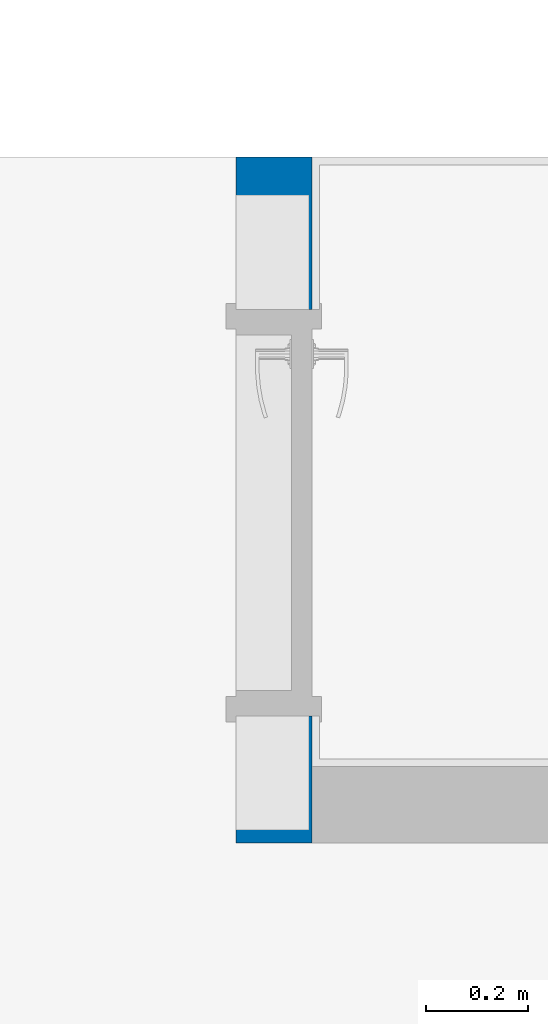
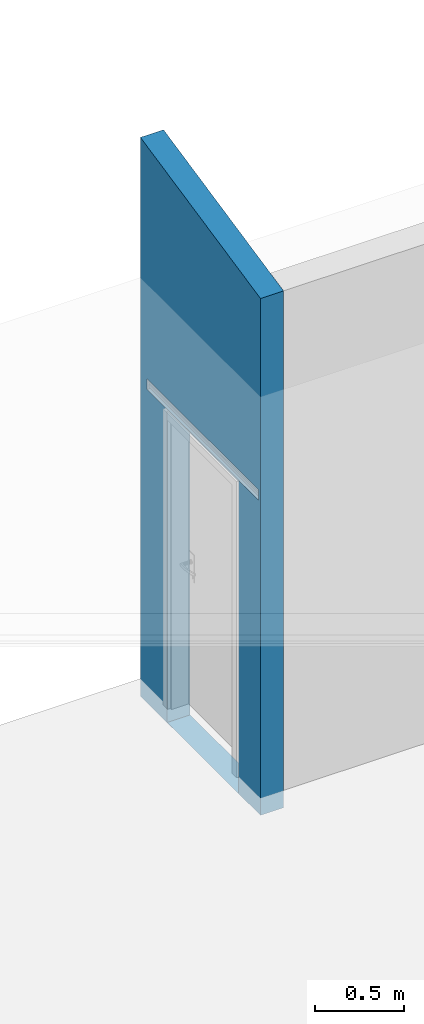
# One storey, part 4 of 5: 1 wall, 1 opening.
"""IFC4 building model written with IfcOpenShell, lengths in millimetres."""

from ifc_helpers import new_model, entity, si_unit, converted_unit, derived_unit, direction, frame, origin_with_axes, place, context, subcontext, project, spatial, polygons, material, constituent, constituent_set, type_object, element, save


model = new_model("IFC4")

# Units and contexts
model_context = context("Model", 3, precision=0.01, world=origin_with_axes(), true_north=direction((0.0, 1.0)))
body_context = subcontext(model_context, "Body", "Model", "MODEL_VIEW")
ifc_project = project(units=[si_unit("LENGTHUNIT", "METRE", prefix="MILLI"), si_unit("AREAUNIT", "SQUARE_METRE"), si_unit("VOLUMEUNIT", "CUBIC_METRE"), converted_unit("PLANEANGLEUNIT", "DEGREE", entity("IfcPlaneAngleMeasure", 0.0174532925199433), si_unit("PLANEANGLEUNIT", "RADIAN"), dimensions=[0, 0, 0, 0, 0, 0, 0]), converted_unit("TIMEUNIT", "Year", entity("IfcTimeMeasure", 31557600.0), si_unit("TIMEUNIT", "SECOND"), dimensions=[0, 0, 1, 0, 0, 0, 0]), si_unit("MASSUNIT", "GRAM", prefix="KILO"), si_unit("THERMODYNAMICTEMPERATUREUNIT", "DEGREE_CELSIUS"), si_unit("LUMINOUSINTENSITYUNIT", "LUMEN"), si_unit("ENERGYUNIT", "JOULE", prefix="MEGA"), derived_unit("THERMALCONDUCTANCEUNIT", [(si_unit("POWERUNIT", "WATT"), 1), (si_unit("LENGTHUNIT", "METRE"), -1), (si_unit("THERMODYNAMICTEMPERATUREUNIT", "KELVIN"), -1)]), derived_unit("SPECIFICHEATCAPACITYUNIT", [(si_unit("ENERGYUNIT", "JOULE"), 1), (si_unit("MASSUNIT", "GRAM", prefix="KILO"), -1), (si_unit("THERMODYNAMICTEMPERATUREUNIT", "KELVIN"), -1)]), derived_unit("MASSDENSITYUNIT", [(si_unit("MASSUNIT", "GRAM", prefix="KILO"), 1), (si_unit("VOLUMEUNIT", "CUBIC_METRE"), -1)])], contexts=[model_context])

# Site, building, storey
site_placement = place(None, origin_with_axes())
site = spatial("IfcSite", under=ifc_project, at=site_placement, Name="Exteriér", CompositionType="ELEMENT")
building_placement = place(site_placement, origin_with_axes())
building = spatial("IfcBuilding", under=site, at=building_placement, Name="Univerzitní lezecké centrum", CompositionType="ELEMENT")
storey_placement = place(building_placement, frame((0.0, 0.0, 9600.000000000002), z_axis=(0.0, 0.0, 1.0), x_axis=(1.0, 0.0, 0.0)))
storey = spatial("IfcBuildingStorey", under=building, at=storey_placement, Name="4.NP", CompositionType="ELEMENT", Elevation=9600.0)

# Wall, opening
ifc_material = material(Name="Keramické tvárnice nenosné tl. 150 mm")
ifc_constituent = constituent(ifc_material, Name="Keramické tvárnice nenosné tl. 150 mm")
ifc_constituent_set = constituent_set(constituents=[ifc_constituent], Name="!Vnitřní keramická stěna 150 mm - nenosná*")
wall_type = type_object("IfcWallType", Name="!Vnitřní keramická stěna 150 mm - nenosná* 150", PredefinedType="NOTDEFINED")
wall_placement = place(storey_placement, frame((7850.112166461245, 4699.999999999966, -120.000000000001), z_axis=(0.0, 0.0, 1.0), x_axis=(0.0, -1.0, 0.0)))
wall = element("IfcWall", 1, at=wall_placement, inside=storey, type_object=wall_type, material=ifc_constituent_set, Name="St07*", PredefinedType="NOTDEFINED", context=body_context, shape_type="Tessellation", body=[
    polygons([(299.9999999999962, 0.0, 3832.904195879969), (299.9999999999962, 150.0000000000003, 3832.904195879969), (299.9999999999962, 150.0000000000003, 0.0), (299.9999999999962, 0.0, 0.0), (1650.000000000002, 150.0000000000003, 3545.952837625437), (1650.000000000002, 0.0, 3545.952837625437), (1650.000000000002, 150.0000000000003, 0.0), (600.0000000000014, 150.0000000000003, 0.5000000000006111), (1400.000000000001, 150.0000000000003, 0.5000000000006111), (1400.000000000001, 150.0000000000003, 120.000000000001), (1400.000000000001, 150.0000000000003, 2140.0), (600.0000000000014, 150.0000000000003, 2140.0), (600.0000000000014, 150.0000000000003, 120.000000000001), (1650.000000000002, 0.0, 0.0), (600.0000000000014, 0.0, 120.000000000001), (600.0000000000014, 0.0, 2140.0), (1400.000000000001, 0.0, 2140.0), (1400.000000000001, 0.0, 120.000000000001), (1400.000000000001, 0.0, 0.5000000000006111), (600.0000000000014, 0.0, 0.5000000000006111), (1625.000000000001, 0.0, 2221.0), (1625.000000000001, 0.0, 2150.0), (375.0000000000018, 0.0, 2150.0), (375.0000000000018, 0.0, 2221.0), (1625.000000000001, 144.274998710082, 2221.0), (1625.000000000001, 144.274998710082, 2150.0), (1625.000000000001, 11.44250000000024, 2180.49963740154), (1625.000000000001, 11.44250000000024, 2160.499637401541), (1625.000000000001, 33.33250000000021, 2160.499637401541), (1625.000000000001, 33.33250000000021, 2180.49963740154), (1625.000000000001, 11.44250000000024, 2210.5), (1625.000000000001, 11.44250000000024, 2190.5), (1625.000000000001, 33.33250000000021, 2190.5), (1625.000000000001, 33.33250000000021, 2210.5), (1625.000000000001, 110.9413637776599, 2160.499637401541), (1625.000000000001, 132.8313637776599, 2160.499637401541), (1625.000000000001, 132.8313637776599, 2180.49963740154), (1625.000000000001, 110.9413637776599, 2180.49963740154), (1625.000000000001, 132.8313637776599, 2210.5), (1625.000000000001, 110.9413637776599, 2210.5), (1625.000000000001, 110.9413637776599, 2190.5), (1625.000000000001, 132.8313637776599, 2190.5), (375.0000000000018, 144.274998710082, 2150.0), (375.0000000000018, 144.274998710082, 2221.0), (375.0000000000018, 33.33250000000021, 2160.499637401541), (375.0000000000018, 11.44250000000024, 2160.499637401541), (375.0000000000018, 11.44250000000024, 2180.49963740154), (375.0000000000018, 33.33250000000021, 2180.49963740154), (375.0000000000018, 33.33250000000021, 2190.5), (375.0000000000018, 11.44250000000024, 2190.5), (375.0000000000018, 11.44250000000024, 2210.5), (375.0000000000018, 33.33250000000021, 2210.5), (375.0000000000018, 132.8313637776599, 2180.49963740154), (375.0000000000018, 132.8313637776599, 2160.499637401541), (375.0000000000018, 110.9413637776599, 2160.499637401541), (375.0000000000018, 110.9413637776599, 2180.49963740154), (375.0000000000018, 110.9413637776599, 2190.5), (375.0000000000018, 110.9413637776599, 2210.5), (375.0000000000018, 132.8313637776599, 2210.5), (375.0000000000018, 132.8313637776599, 2190.5)], [[[1, 2, 3, 4]], [[5, 2, 1, 6]], [[2, 5, 7, 3], [8, 9, 10, 11, 12, 13]], [[3, 7, 14, 4]], [[6, 1, 4, 14], [15, 16, 17, 18, 19, 20], [21, 22, 23, 24]], [[5, 6, 14, 7]], [[19, 9, 8, 20]], [[9, 19, 18, 10]], [[18, 17, 11, 10]], [[17, 16, 12, 11]], [[16, 15, 13, 12]], [[20, 8, 13, 15]], [[21, 25, 26, 22], [27, 28, 29, 30], [31, 32, 33, 34], [35, 36, 37, 38], [39, 40, 41, 42]], [[43, 23, 22, 26]], [[44, 24, 23, 43], [45, 46, 47, 48], [49, 50, 51, 52], [53, 54, 55, 56], [57, 58, 59, 60]], [[44, 25, 21, 24]], [[44, 43, 26, 25]], [[47, 46, 28, 27]], [[46, 45, 29, 28]], [[45, 48, 30, 29]], [[48, 47, 27, 30]], [[51, 50, 32, 31]], [[50, 49, 33, 32]], [[49, 52, 34, 33]], [[52, 51, 31, 34]], [[55, 54, 36, 35]], [[54, 53, 37, 36]], [[53, 56, 38, 37]], [[56, 55, 35, 38]], [[59, 58, 40, 39]], [[58, 57, 41, 40]], [[57, 60, 42, 41]], [[60, 59, 39, 42]]], closed=True),
])
opening_placement = place(wall_placement, frame((1000.000000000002, 0.0, 120.000000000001), z_axis=(0.0, 0.0, 1.0), x_axis=(1.0, 0.0, 0.0)))
element("IfcOpeningElement", 2, at=opening_placement, cuts=wall, Name="D06", context=body_context, identifier="Reference", shape_type="Tessellation", body=[
    polygons([(-399.9999999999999, 150.9999999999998, 0.0), (-399.9999999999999, 150.9999999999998, 2020.0), (399.9999999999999, 150.9999999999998, 2020.0), (399.9999999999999, 150.9999999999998, 0.0), (-412.0000000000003, 150.9999999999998, 0.0), (-412.0000000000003, 150.9999999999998, 2032.0), (411.9999999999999, 150.9999999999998, 2032.0), (411.9999999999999, 150.9999999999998, 0.0), (-399.9999999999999, 150.0000000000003, 0.0), (399.9999999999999, 150.0000000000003, 0.0), (399.9999999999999, 0.0, 0.0), (399.9999999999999, -1.000000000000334, 0.0), (-399.9999999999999, -1.000000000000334, 0.0), (-399.9999999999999, 0.0, 0.0), (-412.0000000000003, 150.0000000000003, 0.0), (-412.0000000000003, 150.0000000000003, 2032.0), (411.9999999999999, 150.0000000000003, 2032.0), (411.9999999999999, 150.0000000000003, 0.0), (399.9999999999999, 150.0000000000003, 2020.0), (399.9999999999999, 0.0, 2020.0), (411.9999999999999, 0.0, 0.0), (411.9999999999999, -1.000000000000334, 0.0), (411.9999999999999, -1.000000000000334, 2032.0), (-412.0000000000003, -1.000000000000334, 2032.0), (-412.0000000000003, -1.000000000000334, 0.0), (-412.0000000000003, 0.0, 0.0), (-399.9999999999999, 150.0000000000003, 2020.0), (-399.9999999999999, 0.0, 2020.0), (-412.0000000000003, 0.0, 2032.0), (411.9999999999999, 0.0, 2032.0)], [[[1, 2, 3, 4]], [[3, 2, 1, 5, 6, 7, 8, 4]], [[9, 1, 4, 10, 11, 12, 13, 14]], [[1, 9, 15, 5]], [[15, 16, 6, 5]], [[16, 17, 7, 6]], [[17, 18, 8, 7]], [[10, 4, 8, 18]], [[10, 19, 20, 11]], [[12, 11, 21, 22]], [[13, 12, 22, 23, 24, 25]], [[14, 13, 25, 26]], [[27, 9, 14, 28]], [[9, 27, 19, 10, 18, 17, 16, 15]], [[19, 27, 28, 20]], [[20, 28, 14, 26, 29, 30, 21, 11]], [[21, 30, 23, 22]], [[30, 29, 24, 23]], [[29, 26, 25, 24]]], closed=True),
])

save(model, "model.ifc")
